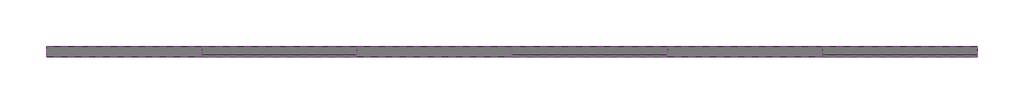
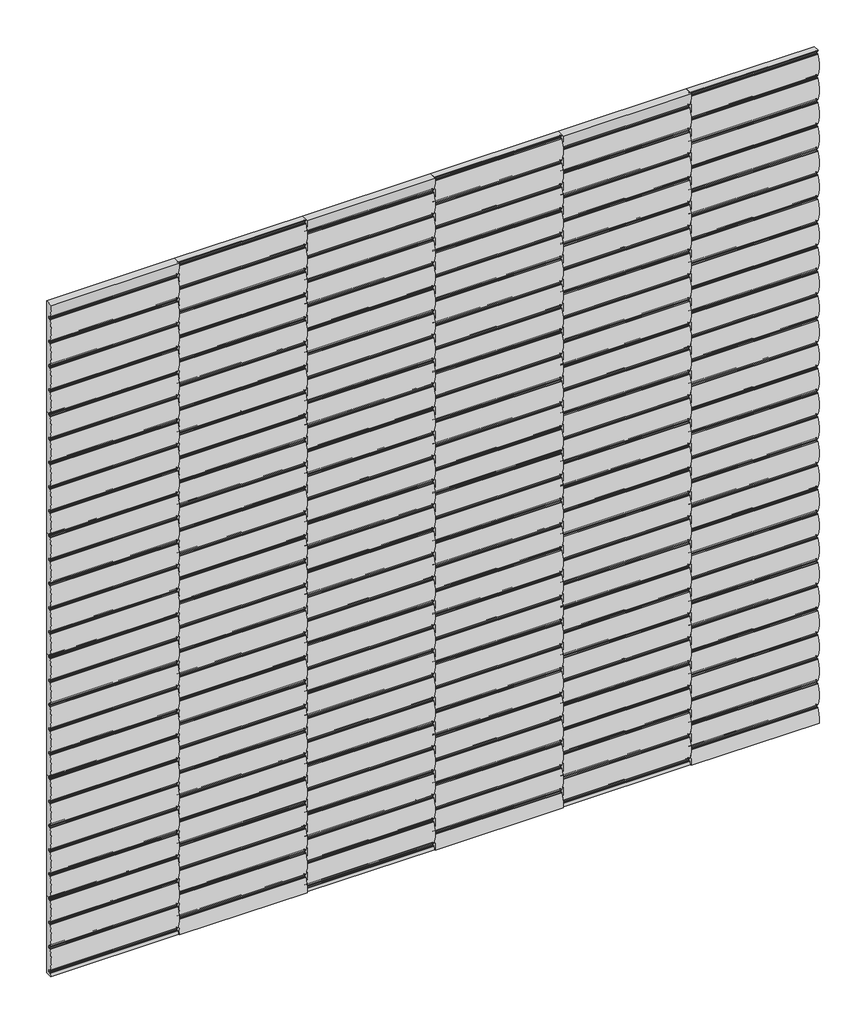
# One storey: 36 proxies.
"""IFC4 building model written with IfcOpenShell, lengths in millimetres."""

from ifc_helpers import new_model, si_unit, origin, place, context, project, spatial, transform, mapped, element, save
from components import specialty_equipment_0b573f12, specialty_equipment_1fc71473, specialty_equipment_60d2a004, specialty_equipment_7c3adb14, specialty_equipment_19383905

model = new_model("IFC4")

# Units and contexts
model_context = context("Model", 3, world=origin())
ifc_project = project(units=[si_unit("LENGTHUNIT", "METRE", prefix="MILLI")], contexts=[model_context])

# Site, building, storey
site = spatial("IfcSite", under=ifc_project)
building = spatial("IfcBuilding", under=site)
storey = spatial("IfcBuildingStorey", under=building, Name="Nível 1", Elevation=0.0)

# Proxies
placement = place(None, origin())
specialty_equipment_shape = specialty_equipment_0b573f12(model_context)
element("IfcBuildingElementProxy", 1, Name="Spinneybeck_Porto 1 : Porto 1", ObjectType="Spinneybeck_Porto 1 : Porto 1", at=placement, inside=storey, context=model_context, shape_type="MappedRepresentation", body=[
    mapped(specialty_equipment_shape, transform((-3406.4383737, 552.5357437, 461.4128011), x_axis=(0.0, 0.0, 1.0), y_axis=(-1.0, 0.0, 0.0), z_axis=(0.0, -1.0, 0.0))),
])
element("IfcBuildingElementProxy", 2, Name="Spinneybeck_Porto 1 : Porto 1", ObjectType="Spinneybeck_Porto 1 : Porto 1", at=placement, inside=storey, context=model_context, shape_type="MappedRepresentation", body=[
    mapped(specialty_equipment_shape, transform((-3406.4383737, 552.5357437, 867.8128011), x_axis=(0.0, 0.0, 1.0), y_axis=(-1.0, 0.0, 0.0), z_axis=(0.0, -1.0, 0.0))),
])
element("IfcBuildingElementProxy", 3, Name="Spinneybeck_Porto 1 : Porto 1", ObjectType="Spinneybeck_Porto 1 : Porto 1", at=placement, inside=storey, context=model_context, shape_type="MappedRepresentation", body=[
    mapped(specialty_equipment_shape, transform((-3406.4383737, 552.5357437, 1274.2128011), x_axis=(0.0, 0.0, 1.0), y_axis=(-1.0, 0.0, 0.0), z_axis=(0.0, -1.0, 0.0))),
])
element("IfcBuildingElementProxy", 4, Name="Spinneybeck_Porto 1 : Porto 1", ObjectType="Spinneybeck_Porto 1 : Porto 1", at=placement, inside=storey, context=model_context, shape_type="MappedRepresentation", body=[
    mapped(specialty_equipment_shape, transform((-3406.4383737, 552.5357437, 1680.6128011), x_axis=(0.0, 0.0, 1.0), y_axis=(-1.0, 0.0, 0.0), z_axis=(0.0, -1.0, 0.0))),
])
element("IfcBuildingElementProxy", 5, Name="Spinneybeck_Porto 1 : Porto 1", ObjectType="Spinneybeck_Porto 1 : Porto 1", at=placement, inside=storey, context=model_context, shape_type="MappedRepresentation", body=[
    mapped(specialty_equipment_shape, transform((-3000.0383737, 552.5357437, 580.4753011), x_axis=(0.0, 0.0, 1.0), y_axis=(-1.0, 0.0, 0.0), z_axis=(0.0, -1.0, 0.0))),
])
element("IfcBuildingElementProxy", 6, Name="Spinneybeck_Porto 1 : Porto 1", ObjectType="Spinneybeck_Porto 1 : Porto 1", at=placement, inside=storey, context=model_context, shape_type="MappedRepresentation", body=[
    mapped(specialty_equipment_shape, transform((-3000.0383737, 552.5357437, 986.8753011), x_axis=(0.0, 0.0, 1.0), y_axis=(-1.0, 0.0, 0.0), z_axis=(0.0, -1.0, 0.0))),
])
element("IfcBuildingElementProxy", 7, Name="Spinneybeck_Porto 1 : Porto 1", ObjectType="Spinneybeck_Porto 1 : Porto 1", at=placement, inside=storey, context=model_context, shape_type="MappedRepresentation", body=[
    mapped(specialty_equipment_shape, transform((-3000.0383737, 552.5357437, 1393.2753011), x_axis=(0.0, 0.0, 1.0), y_axis=(-1.0, 0.0, 0.0), z_axis=(0.0, -1.0, 0.0))),
])
element("IfcBuildingElementProxy", 8, Name="Spinneybeck_Porto 1 : Porto 1", ObjectType="Spinneybeck_Porto 1 : Porto 1", at=placement, inside=storey, context=model_context, shape_type="MappedRepresentation", body=[
    mapped(specialty_equipment_shape, transform((-3000.0383737, 552.5357437, 1799.6753011), x_axis=(0.0, 0.0, 1.0), y_axis=(-1.0, 0.0, 0.0), z_axis=(0.0, -1.0, 0.0))),
])
element("IfcBuildingElementProxy", 9, Name="Spinneybeck_Porto 1 : Porto 1", ObjectType="Spinneybeck_Porto 1 : Porto 1", at=placement, inside=storey, context=model_context, shape_type="MappedRepresentation", body=[
    mapped(specialty_equipment_shape, transform((-2593.6383737, 552.5357437, 461.4128011), x_axis=(0.0, 0.0, 1.0), y_axis=(-1.0, 0.0, 0.0), z_axis=(0.0, -1.0, 0.0))),
])
element("IfcBuildingElementProxy", 10, Name="Spinneybeck_Porto 1 : Porto 1", ObjectType="Spinneybeck_Porto 1 : Porto 1", at=placement, inside=storey, context=model_context, shape_type="MappedRepresentation", body=[
    mapped(specialty_equipment_shape, transform((-2593.6383737, 552.5357437, 867.8128011), x_axis=(0.0, 0.0, 1.0), y_axis=(-1.0, 0.0, 0.0), z_axis=(0.0, -1.0, 0.0))),
])
element("IfcBuildingElementProxy", 11, Name="Spinneybeck_Porto 1 : Porto 1", ObjectType="Spinneybeck_Porto 1 : Porto 1", at=placement, inside=storey, context=model_context, shape_type="MappedRepresentation", body=[
    mapped(specialty_equipment_shape, transform((-2593.6383737, 552.5357437, 1274.2128011), x_axis=(0.0, 0.0, 1.0), y_axis=(-1.0, 0.0, 0.0), z_axis=(0.0, -1.0, 0.0))),
])
element("IfcBuildingElementProxy", 12, Name="Spinneybeck_Porto 1 : Porto 1", ObjectType="Spinneybeck_Porto 1 : Porto 1", at=placement, inside=storey, context=model_context, shape_type="MappedRepresentation", body=[
    mapped(specialty_equipment_shape, transform((-2593.6383737, 552.5357437, 1680.6128011), x_axis=(0.0, 0.0, 1.0), y_axis=(-1.0, 0.0, 0.0), z_axis=(0.0, -1.0, 0.0))),
])
element("IfcBuildingElementProxy", 13, Name="Spinneybeck_Porto 1 : Porto 1", ObjectType="Spinneybeck_Porto 1 : Porto 1", at=placement, inside=storey, context=model_context, shape_type="MappedRepresentation", body=[
    mapped(specialty_equipment_shape, transform((-2187.2383737, 552.5357437, 580.4753011), x_axis=(0.0, 0.0, 1.0), y_axis=(-1.0, 0.0, 0.0), z_axis=(0.0, -1.0, 0.0))),
])
element("IfcBuildingElementProxy", 14, Name="Spinneybeck_Porto 1 : Porto 1", ObjectType="Spinneybeck_Porto 1 : Porto 1", at=placement, inside=storey, context=model_context, shape_type="MappedRepresentation", body=[
    mapped(specialty_equipment_shape, transform((-2187.2383737, 552.5357437, 986.8753011), x_axis=(0.0, 0.0, 1.0), y_axis=(-1.0, 0.0, 0.0), z_axis=(0.0, -1.0, 0.0))),
])
element("IfcBuildingElementProxy", 15, Name="Spinneybeck_Porto 1 : Porto 1", ObjectType="Spinneybeck_Porto 1 : Porto 1", at=placement, inside=storey, context=model_context, shape_type="MappedRepresentation", body=[
    mapped(specialty_equipment_shape, transform((-2187.2383737, 552.5357437, 1393.2753011), x_axis=(0.0, 0.0, 1.0), y_axis=(-1.0, 0.0, 0.0), z_axis=(0.0, -1.0, 0.0))),
])
element("IfcBuildingElementProxy", 16, Name="Spinneybeck_Porto 1 : Porto 1", ObjectType="Spinneybeck_Porto 1 : Porto 1", at=placement, inside=storey, context=model_context, shape_type="MappedRepresentation", body=[
    mapped(specialty_equipment_shape, transform((-2187.2383737, 552.5357437, 1799.6753011), x_axis=(0.0, 0.0, 1.0), y_axis=(-1.0, 0.0, 0.0), z_axis=(0.0, -1.0, 0.0))),
])
element("IfcBuildingElementProxy", 17, Name="Spinneybeck_Porto 1 : Porto 1", ObjectType="Spinneybeck_Porto 1 : Porto 1", at=placement, inside=storey, context=model_context, shape_type="MappedRepresentation", body=[
    mapped(specialty_equipment_shape, transform((-1780.8383737, 552.5357437, 461.4128011), x_axis=(0.0, 0.0, 1.0), y_axis=(-1.0, 0.0, 0.0), z_axis=(0.0, -1.0, 0.0))),
])
element("IfcBuildingElementProxy", 18, Name="Spinneybeck_Porto 1 : Porto 1", ObjectType="Spinneybeck_Porto 1 : Porto 1", at=placement, inside=storey, context=model_context, shape_type="MappedRepresentation", body=[
    mapped(specialty_equipment_shape, transform((-1780.8383737, 552.5357437, 867.8128011), x_axis=(0.0, 0.0, 1.0), y_axis=(-1.0, 0.0, 0.0), z_axis=(0.0, -1.0, 0.0))),
])
element("IfcBuildingElementProxy", 19, Name="Spinneybeck_Porto 1 : Porto 1", ObjectType="Spinneybeck_Porto 1 : Porto 1", at=placement, inside=storey, context=model_context, shape_type="MappedRepresentation", body=[
    mapped(specialty_equipment_shape, transform((-1780.8383737, 552.5357437, 1274.2128011), x_axis=(0.0, 0.0, 1.0), y_axis=(-1.0, 0.0, 0.0), z_axis=(0.0, -1.0, 0.0))),
])
element("IfcBuildingElementProxy", 20, Name="Spinneybeck_Porto 1 : Porto 1", ObjectType="Spinneybeck_Porto 1 : Porto 1", at=placement, inside=storey, context=model_context, shape_type="MappedRepresentation", body=[
    mapped(specialty_equipment_shape, transform((-1780.8383737, 552.5357437, 1680.6128011), x_axis=(0.0, 0.0, 1.0), y_axis=(-1.0, 0.0, 0.0), z_axis=(0.0, -1.0, 0.0))),
])
element("IfcBuildingElementProxy", 21, Name="Spinneybeck_Porto 1 : Porto 1", ObjectType="Spinneybeck_Porto 1 : Porto 1", at=placement, inside=storey, context=model_context, shape_type="MappedRepresentation", body=[
    mapped(specialty_equipment_shape, transform((-1374.4383737, 552.5357437, 580.4753011), x_axis=(0.0, 0.0, 1.0), y_axis=(-1.0, 0.0, 0.0), z_axis=(0.0, -1.0, 0.0))),
])
element("IfcBuildingElementProxy", 22, Name="Spinneybeck_Porto 1 : Porto 1", ObjectType="Spinneybeck_Porto 1 : Porto 1", at=placement, inside=storey, context=model_context, shape_type="MappedRepresentation", body=[
    mapped(specialty_equipment_shape, transform((-1374.4383737, 552.5357437, 986.8753011), x_axis=(0.0, 0.0, 1.0), y_axis=(-1.0, 0.0, 0.0), z_axis=(0.0, -1.0, 0.0))),
])
element("IfcBuildingElementProxy", 23, Name="Spinneybeck_Porto 1 : Porto 1", ObjectType="Spinneybeck_Porto 1 : Porto 1", at=placement, inside=storey, context=model_context, shape_type="MappedRepresentation", body=[
    mapped(specialty_equipment_shape, transform((-1374.4383737, 552.5357437, 1393.2753011), x_axis=(0.0, 0.0, 1.0), y_axis=(-1.0, 0.0, 0.0), z_axis=(0.0, -1.0, 0.0))),
])
element("IfcBuildingElementProxy", 24, Name="Spinneybeck_Porto 1 : Porto 1", ObjectType="Spinneybeck_Porto 1 : Porto 1", at=placement, inside=storey, context=model_context, shape_type="MappedRepresentation", body=[
    mapped(specialty_equipment_shape, transform((-1374.4383737, 552.5357437, 1799.6753011), x_axis=(0.0, 0.0, 1.0), y_axis=(-1.0, 0.0, 0.0), z_axis=(0.0, -1.0, 0.0))),
])
specialty_equipment_2_shape = specialty_equipment_1fc71473(model_context)
element("IfcBuildingElementProxy", 25, Name="Spinneybeck_Porto 1 : Porto 1", ObjectType="Spinneybeck_Porto 1 : Porto 1", at=placement, inside=storey, context=model_context, shape_type="MappedRepresentation", body=[
    mapped(specialty_equipment_2_shape, transform((-3406.4383737, 552.5357437, 55.0128011), x_axis=(0.0, 0.0, 1.0), y_axis=(-1.0, 0.0, 0.0), z_axis=(0.0, -1.0, 0.0))),
])
element("IfcBuildingElementProxy", 26, Name="Spinneybeck_Porto 1 : Porto 1", ObjectType="Spinneybeck_Porto 1 : Porto 1", at=placement, inside=storey, context=model_context, shape_type="MappedRepresentation", body=[
    mapped(specialty_equipment_2_shape, transform((-2593.6383737, 552.5357437, 55.0128011), x_axis=(0.0, 0.0, 1.0), y_axis=(-1.0, 0.0, 0.0), z_axis=(0.0, -1.0, 0.0))),
])
element("IfcBuildingElementProxy", 27, Name="Spinneybeck_Porto 1 : Porto 1", ObjectType="Spinneybeck_Porto 1 : Porto 1", at=placement, inside=storey, context=model_context, shape_type="MappedRepresentation", body=[
    mapped(specialty_equipment_2_shape, transform((-1780.8383737, 552.5357437, 55.0128011), x_axis=(0.0, 0.0, 1.0), y_axis=(-1.0, 0.0, 0.0), z_axis=(0.0, -1.0, 0.0))),
])
specialty_equipment_3_shape = specialty_equipment_60d2a004(model_context)
element("IfcBuildingElementProxy", 28, Name="Spinneybeck_Porto 1 : Porto 1", ObjectType="Spinneybeck_Porto 1 : Porto 1", at=placement, inside=storey, context=model_context, shape_type="MappedRepresentation", body=[
    mapped(specialty_equipment_3_shape, transform((-3406.4383737, 552.5357437, 2087.0128011), x_axis=(0.0, 0.0, 1.0), y_axis=(-1.0, 0.0, 0.0), z_axis=(0.0, -1.0, 0.0))),
])
element("IfcBuildingElementProxy", 29, Name="Spinneybeck_Porto 1 : Porto 1", ObjectType="Spinneybeck_Porto 1 : Porto 1", at=placement, inside=storey, context=model_context, shape_type="MappedRepresentation", body=[
    mapped(specialty_equipment_3_shape, transform((-2593.6383737, 552.5357437, 2087.0128011), x_axis=(0.0, 0.0, 1.0), y_axis=(-1.0, 0.0, 0.0), z_axis=(0.0, -1.0, 0.0))),
])
element("IfcBuildingElementProxy", 30, Name="Spinneybeck_Porto 1 : Porto 1", ObjectType="Spinneybeck_Porto 1 : Porto 1", at=placement, inside=storey, context=model_context, shape_type="MappedRepresentation", body=[
    mapped(specialty_equipment_3_shape, transform((-1780.8383737, 552.5357437, 2087.0128011), x_axis=(0.0, 0.0, 1.0), y_axis=(-1.0, 0.0, 0.0), z_axis=(0.0, -1.0, 0.0))),
])
specialty_equipment_4_shape = specialty_equipment_7c3adb14(model_context)
element("IfcBuildingElementProxy", 31, Name="Spinneybeck_Porto 1 : Porto 1", ObjectType="Spinneybeck_Porto 1 : Porto 1", at=placement, inside=storey, context=model_context, shape_type="MappedRepresentation", body=[
    mapped(specialty_equipment_4_shape, transform((-3000.0383737, 552.5357437, 174.0753011), x_axis=(0.0, 0.0, 1.0), y_axis=(-1.0, 0.0, 0.0), z_axis=(0.0, -1.0, 0.0))),
])
element("IfcBuildingElementProxy", 32, Name="Spinneybeck_Porto 1 : Porto 1", ObjectType="Spinneybeck_Porto 1 : Porto 1", at=placement, inside=storey, context=model_context, shape_type="MappedRepresentation", body=[
    mapped(specialty_equipment_4_shape, transform((-2187.2383737, 552.5357437, 174.0753011), x_axis=(0.0, 0.0, 1.0), y_axis=(-1.0, 0.0, 0.0), z_axis=(0.0, -1.0, 0.0))),
])
element("IfcBuildingElementProxy", 33, Name="Spinneybeck_Porto 1 : Porto 1", ObjectType="Spinneybeck_Porto 1 : Porto 1", at=placement, inside=storey, context=model_context, shape_type="MappedRepresentation", body=[
    mapped(specialty_equipment_4_shape, transform((-1374.4383737, 552.5357437, 174.0753011), x_axis=(0.0, 0.0, 1.0), y_axis=(-1.0, 0.0, 0.0), z_axis=(0.0, -1.0, 0.0))),
])
specialty_equipment_5_shape = specialty_equipment_19383905(model_context)
element("IfcBuildingElementProxy", 34, Name="Spinneybeck_Porto 1 : Porto 1", ObjectType="Spinneybeck_Porto 1 : Porto 1", at=placement, inside=storey, context=model_context, shape_type="MappedRepresentation", body=[
    mapped(specialty_equipment_5_shape, transform((-3000.0383737, 552.5357437, 2206.0753011), x_axis=(0.0, 0.0, 1.0), y_axis=(-1.0, 0.0, 0.0), z_axis=(0.0, -1.0, 0.0))),
])
element("IfcBuildingElementProxy", 35, Name="Spinneybeck_Porto 1 : Porto 1", ObjectType="Spinneybeck_Porto 1 : Porto 1", at=placement, inside=storey, context=model_context, shape_type="MappedRepresentation", body=[
    mapped(specialty_equipment_5_shape, transform((-2187.2383737, 552.5357437, 2206.0753011), x_axis=(0.0, 0.0, 1.0), y_axis=(-1.0, 0.0, 0.0), z_axis=(0.0, -1.0, 0.0))),
])
element("IfcBuildingElementProxy", 36, Name="Spinneybeck_Porto 1 : Porto 1", ObjectType="Spinneybeck_Porto 1 : Porto 1", at=placement, inside=storey, context=model_context, shape_type="MappedRepresentation", body=[
    mapped(specialty_equipment_5_shape, transform((-1374.4383737, 552.5357437, 2206.0753011), x_axis=(0.0, 0.0, 1.0), y_axis=(-1.0, 0.0, 0.0), z_axis=(0.0, -1.0, 0.0))),
])

save(model, "model.ifc")
